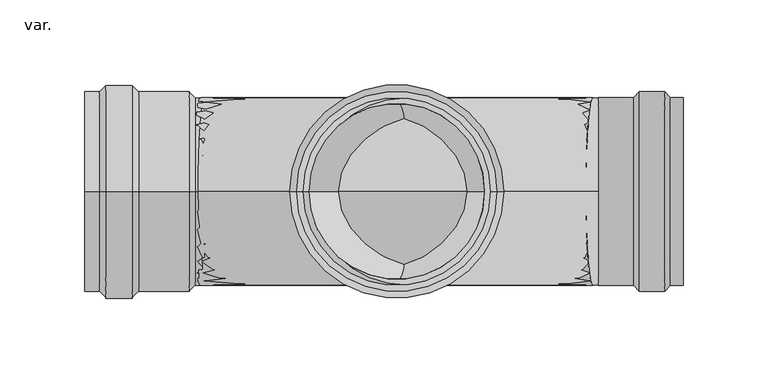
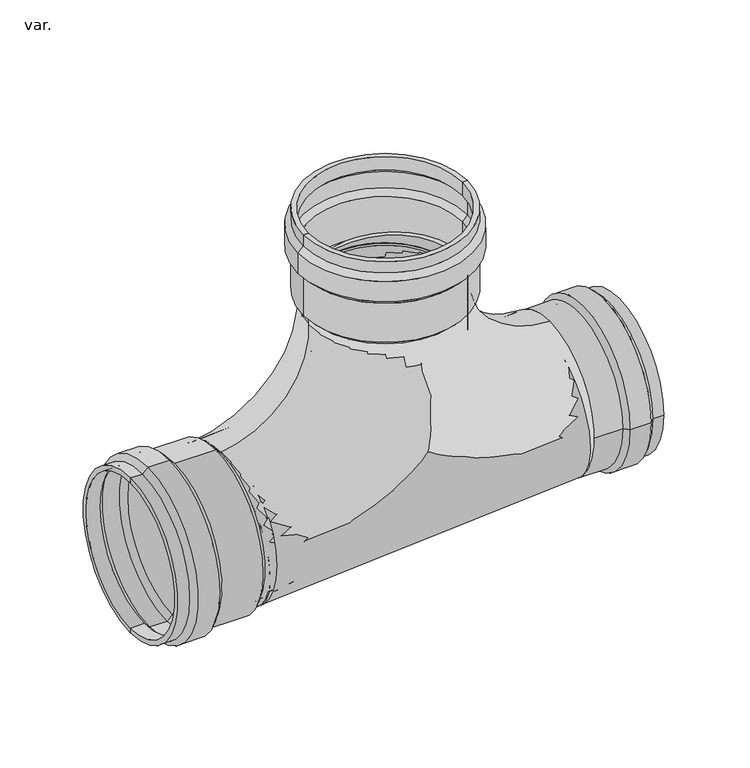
"""IFC4 building model written with IfcOpenShell, lengths in millimetres: pipe fitting geometry, AmancoWavin_ConexõesdeTubos_ColetoresTILdeligaçãoDN101.6XDN110 : var.."""

from ifc_helpers import new_model, si_unit, point, frame, origin, place, context, project, spatial, polyline, circle_curve, ellipse_curve, trimmed, source, transform, mapped, element, save
from ifc_brep_helpers import plane_surface, cylinder_surface, revolved_surface, advanced_brep


def var_0efadf23(model_context):
    return source(origin(), model_context, "Body", "AdvancedBrep", [
        advanced_brep(
        [(-173.6818444, 0.0, -72.5281325), (-173.6818444, 0.0, 38.2621325), (-183.6818444, 0.0, 38.2621325), (-183.6818444, 0.0, -72.5281325), (-110.326258, 0.0, -68.9925986), (-110.326258, 0.0, 34.7265986), (-120.1418444, 0.0, 34.7265986), (-120.1418444, 0.0, -68.9925986), (-123.6773783, 0.0, 38.2621325), (-123.6773783, 0.0, -72.5281325), (-153.3818444, 0.0, 38.2621325), (-153.3818444, 0.0, -72.5281325), (-157.2818444, 0.0, 42.1621325), (-157.2818444, 0.0, -76.4281325), (-169.7818444, 0.0, 42.1621325), (-169.7818444, 0.0, -76.4281325), (-183.6818444, 0.0, 41.8621325), (-183.6818444, 0.0, -76.1281325), (-175.1730132, 0.0, 41.8621325), (-175.1730132, 0.0, -76.1281325), (-171.2730132, 0.0, 45.7621325), (-171.2730132, 0.0, -80.0281325), (-155.7906756, 0.0, 45.7621325), (-155.7906756, 0.0, -80.0281325), (-151.8906756, 0.0, 41.8621325), (-151.8906756, 0.0, -76.1281325), (-122.1862095, 0.0, 41.8621325), (-122.1862095, 0.0, -76.1281325), (-118.6506756, 0.0, 38.3265986), (-118.6506756, 0.0, -72.5925986), (-110.326258, 0.0, -72.5925986), (-110.326258, 0.0, 38.3265986)],
        [
            (0, 1, circle_curve(frame((-173.6818444, 0.0, -17.133), z_axis=(1.0, 0.0, 0.0), x_axis=(0.0, 0.0, 1.0)), 55.3951325)),
            (1, 2),
            (2, 3, circle_curve(frame((-183.6818444, 0.0, -17.133), z_axis=(-1.0, 0.0, 0.0), x_axis=(0.0, 0.0, 1.0)), 55.3951325)),
            (3, 0),
            (1, 0, circle_curve(frame((-173.6818444, 0.0, -17.133), z_axis=(1.0, 0.0, 0.0), x_axis=(0.0, 0.0, 1.0)), 55.3951325)),
            (3, 2, circle_curve(frame((-183.6818444, 0.0, -17.133), z_axis=(-1.0, 0.0, 0.0), x_axis=(0.0, 0.0, 1.0)), 55.3951325)),
            (4, 5, circle_curve(frame((-110.326258, 0.0, -17.133), z_axis=(1.0, 0.0, 0.0), x_axis=(0.0, 0.0, 1.0)), 51.8595986)),
            (5, 6),
            (6, 7, circle_curve(frame((-120.1418444, 0.0, -17.133), z_axis=(-1.0, 0.0, 0.0), x_axis=(0.0, 0.0, 1.0)), 51.8595986)),
            (7, 4),
            (5, 4, circle_curve(frame((-110.326258, 0.0, -17.133), z_axis=(1.0, 0.0, 0.0), x_axis=(0.0, 0.0, 1.0)), 51.8595986)),
            (7, 6, circle_curve(frame((-120.1418444, 0.0, -17.133), z_axis=(-1.0, 0.0, 0.0), x_axis=(0.0, 0.0, 1.0)), 51.8595986)),
            (6, 8),
            (8, 9, circle_curve(frame((-123.6773783, 0.0, -17.133), z_axis=(-1.0, 0.0, 0.0), x_axis=(0.0, 0.0, 1.0)), 55.3951325)),
            (9, 7),
            (9, 8, circle_curve(frame((-123.6773783, 0.0, -17.133), z_axis=(-1.0, 0.0, 0.0), x_axis=(0.0, 0.0, 1.0)), 55.3951325)),
            (8, 10),
            (10, 11, circle_curve(frame((-153.3818444, 0.0, -17.133), z_axis=(-1.0, 0.0, 0.0), x_axis=(0.0, 0.0, 1.0)), 55.3951325)),
            (11, 9),
            (11, 10, circle_curve(frame((-153.3818444, 0.0, -17.133), z_axis=(-1.0, 0.0, 0.0), x_axis=(0.0, 0.0, 1.0)), 55.3951325)),
            (10, 12),
            (12, 13, circle_curve(frame((-157.2818444, 0.0, -17.133), z_axis=(-1.0, 0.0, 0.0), x_axis=(0.0, 0.0, 1.0)), 59.2951325)),
            (13, 11),
            (13, 12, circle_curve(frame((-157.2818444, 0.0, -17.133), z_axis=(-1.0, 0.0, 0.0), x_axis=(0.0, 0.0, 1.0)), 59.2951325)),
            (12, 14),
            (14, 15, circle_curve(frame((-169.7818444, 0.0, -17.133), z_axis=(-1.0, 0.0, 0.0), x_axis=(0.0, 0.0, 1.0)), 59.2951325)),
            (15, 13),
            (15, 14, circle_curve(frame((-169.7818444, 0.0, -17.133), z_axis=(-1.0, 0.0, 0.0), x_axis=(0.0, 0.0, 1.0)), 59.2951325)),
            (14, 1),
            (0, 15),
            (2, 16),
            (16, 17, circle_curve(frame((-183.6818444, 0.0, -17.133), z_axis=(-1.0, 0.0, 0.0), x_axis=(0.0, 0.0, 1.0)), 58.9951325)),
            (17, 3),
            (17, 16, circle_curve(frame((-183.6818444, 0.0, -17.133), z_axis=(-1.0, 0.0, 0.0), x_axis=(0.0, 0.0, 1.0)), 58.9951325)),
            (16, 18),
            (18, 19, circle_curve(frame((-175.1730132, 0.0, -17.133), z_axis=(-1.0, 0.0, 0.0), x_axis=(0.0, 0.0, 1.0)), 58.9951325)),
            (19, 17),
            (19, 18, circle_curve(frame((-175.1730132, 0.0, -17.133), z_axis=(-1.0, 0.0, 0.0), x_axis=(0.0, 0.0, 1.0)), 58.9951325)),
            (18, 20),
            (20, 21, circle_curve(frame((-171.2730132, 0.0, -17.133), z_axis=(-1.0, 0.0, 0.0), x_axis=(0.0, 0.0, 1.0)), 62.8951325)),
            (21, 19),
            (21, 20, circle_curve(frame((-171.2730132, 0.0, -17.133), z_axis=(-1.0, 0.0, 0.0), x_axis=(0.0, 0.0, 1.0)), 62.8951325)),
            (20, 22),
            (22, 23, circle_curve(frame((-155.7906756, 0.0, -17.133), z_axis=(-1.0, 0.0, 0.0), x_axis=(0.0, 0.0, 1.0)), 62.8951325)),
            (23, 21),
            (23, 22, circle_curve(frame((-155.7906756, 0.0, -17.133), z_axis=(-1.0, 0.0, 0.0), x_axis=(0.0, 0.0, 1.0)), 62.8951325)),
            (22, 24),
            (24, 25, circle_curve(frame((-151.8906756, 0.0, -17.133), z_axis=(-1.0, 0.0, 0.0), x_axis=(0.0, 0.0, 1.0)), 58.9951325)),
            (25, 23),
            (25, 24, circle_curve(frame((-151.8906756, 0.0, -17.133), z_axis=(-1.0, 0.0, 0.0), x_axis=(0.0, 0.0, 1.0)), 58.9951325)),
            (24, 26),
            (26, 27, circle_curve(frame((-122.1862095, 0.0, -17.133), z_axis=(-1.0, 0.0, 0.0), x_axis=(0.0, 0.0, 1.0)), 58.9951325)),
            (27, 25),
            (27, 26, circle_curve(frame((-122.1862095, 0.0, -17.133), z_axis=(-1.0, 0.0, 0.0), x_axis=(0.0, 0.0, 1.0)), 58.9951325)),
            (26, 28),
            (28, 29, circle_curve(frame((-118.6506756, 0.0, -17.133), z_axis=(-1.0, 0.0, 0.0), x_axis=(0.0, 0.0, 1.0)), 55.4595986)),
            (29, 27),
            (29, 28, circle_curve(frame((-118.6506756, 0.0, -17.133), z_axis=(-1.0, 0.0, 0.0), x_axis=(0.0, 0.0, 1.0)), 55.4595986)),
            (30, 31, circle_curve(frame((-110.326258, 0.0, -17.133), z_axis=(1.0, 0.0, 0.0), x_axis=(0.0, 0.0, 1.0)), 55.4595986)),
            (31, 5),
            (4, 30),
            (31, 30, circle_curve(frame((-110.326258, 0.0, -17.133), z_axis=(1.0, 0.0, 0.0), x_axis=(0.0, 0.0, 1.0)), 55.4595986)),
            (28, 31),
            (30, 29),
        ],
        [
            revolved_surface(polyline([(-183.68184440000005, 0.0, 38.26213250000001), (-173.68184440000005, 0.0, 38.26213250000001)]), (-1559.8194868, 0.0, -17.133), (-1.0, 0.0, 0.0)),
            revolved_surface(polyline([(-120.14184440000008, 0.0, 34.7265986), (-110.32625800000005, 0.0, 34.7265986)]), (-1559.8194868, 0.0, -17.133), (-1.0, 0.0, 0.0)),
            revolved_surface(polyline([(-123.6773783, 0.0, 38.2621325), (-120.1418444, 0.0, 34.7265986)]), (-1559.8194868, 0.0, -17.133), (-1.0, 0.0, 0.0)),
            revolved_surface(polyline([(-153.3818444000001, 0.0, 38.26213250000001), (-123.6773783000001, 0.0, 38.26213250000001)]), (-1559.8194868, 0.0, -17.133), (-1.0, 0.0, 0.0)),
            revolved_surface(polyline([(-157.2818444, 0.0, 42.1621325), (-153.3818444, 0.0, 38.2621325)]), (-1559.8194868, 0.0, -17.133), (-1.0, 0.0, 0.0)),
            revolved_surface(polyline([(-169.78184439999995, 0.0, 42.1621325), (-157.28184439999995, 0.0, 42.1621325)]), (-1559.8194868, 0.0, -17.133), (-1.0, 0.0, 0.0)),
            revolved_surface(polyline([(-173.6818444, 0.0, 38.2621325), (-169.7818444, 0.0, 42.1621325)]), (-1559.8194868, 0.0, -17.133), (-1.0, 0.0, 0.0)),
            plane_surface(frame((-183.6818444, 0.0, -17.133), z_axis=(-1.0, 0.0, 0.0), x_axis=(0.0, 0.0, 1.0))),
            cylinder_surface(frame((-1559.8194868, 0.0, -17.133), z_axis=(-1.0, 0.0, 0.0), x_axis=(0.0, 0.0, 1.0)), 58.9951325),
            revolved_surface(polyline([(-171.2730132, 0.0, 45.7621325), (-175.1730132, 0.0, 41.8621325)]), (-1559.8194868, 0.0, -17.133), (-1.0, 0.0, 0.0)),
            cylinder_surface(frame((-1559.8194868, 0.0, -17.133), z_axis=(-1.0, 0.0, 0.0), x_axis=(0.0, 0.0, 1.0)), 62.8951325),
            revolved_surface(polyline([(-151.8906756, 0.0, 41.8621325), (-155.7906756, 0.0, 45.7621325)]), (-1559.8194868, 0.0, -17.133), (-1.0, 0.0, 0.0)),
            revolved_surface(polyline([(-118.6506756, 0.0, 38.3265986), (-122.1862095, 0.0, 41.8621325)]), (-1559.8194868, 0.0, -17.133), (-1.0, 0.0, 0.0)),
            plane_surface(frame((-110.326258, 0.0, -17.133), z_axis=(1.0, 0.0, 0.0), x_axis=(0.0, 0.0, 1.0))),
            cylinder_surface(frame((-1559.8194868, 0.0, -17.133), z_axis=(-1.0, 0.0, 0.0), x_axis=(0.0, 0.0, 1.0)), 55.4595986),
        ],
        [
            (0, [[1, 2, 3, 4]]),
            (0, [[5, -4, 6, -2]]),
            (1, [[7, 8, 9, 10]]),
            (1, [[11, -10, 12, -8]]),
            (2, [[-9, 13, 14, 15]]),
            (2, [[-12, -15, 16, -13]]),
            (3, [[-14, 17, 18, 19]]),
            (3, [[-16, -19, 20, -17]]),
            (4, [[-18, 21, 22, 23]]),
            (4, [[-20, -23, 24, -21]]),
            (5, [[-22, 25, 26, 27]]),
            (5, [[-24, -27, 28, -25]]),
            (6, [[-26, 29, -1, 30]]),
            (6, [[-28, -30, -5, -29]]),
            (7, [[-3, 31, 32, 33]]),
            (7, [[-6, -33, 34, -31]]),
            (8, [[-32, 35, 36, 37]]),
            (8, [[-34, -37, 38, -35]]),
            (9, [[-36, 39, 40, 41]]),
            (9, [[-38, -41, 42, -39]]),
            (10, [[-40, 43, 44, 45]]),
            (10, [[-42, -45, 46, -43]]),
            (11, [[-44, 47, 48, 49]]),
            (11, [[-46, -49, 50, -47]]),
            (8, [[-48, 51, 52, 53]]),
            (8, [[-50, -53, 54, -51]]),
            (12, [[-52, 55, 56, 57]]),
            (12, [[-54, -57, 58, -55]]),
            (13, [[59, 60, -7, 61]]),
            (13, [[62, -61, -11, -60]]),
            (14, [[-56, 63, -59, 64]]),
            (14, [[-58, -64, -62, -63]]),
        ],
    ),
        advanced_brep(
        [(-111.4491883, 0.0, -72.4412911), (-119.6499959, 0.0, 38.1751324), (-111.7153523, 0.0, -68.8511439), (-119.383832, 0.0, 34.5849853), (119.6499959, 0.0, -55.3082118), (111.4491883, 0.0, 55.3082118), (119.383832, 0.0, -51.7180646), (111.7153523, 0.0, 51.7180646)],
        [
            (0, 1, circle_curve(frame((-115.5495921, 0.0, -17.1330793), z_axis=(-0.997263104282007, 0.0, -0.07393443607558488), x_axis=(-0.07393443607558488, 0.0, 0.997263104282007)), 55.46)),
            (1, 0, circle_curve(frame((-115.5495921, 0.0, -17.1330793), z_axis=(-0.997263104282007, 0.0, -0.07393443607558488), x_axis=(-0.07393443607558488, 0.0, 0.997263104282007)), 55.46)),
            (2, 3, circle_curve(frame((-115.5495921, 0.0, -17.1330793), z_axis=(0.997263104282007, 0.0, 0.07393443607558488), x_axis=(-0.07393443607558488, 0.0, 0.997263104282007)), 51.86)),
            (3, 2, circle_curve(frame((-115.5495921, 0.0, -17.1330793), z_axis=(0.997263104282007, 0.0, 0.07393443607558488), x_axis=(-0.07393443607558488, 0.0, 0.997263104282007)), 51.86)),
            (4, 5, circle_curve(frame((115.5495921, 0.0, 0.0), z_axis=(0.997263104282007, 0.0, 0.07393443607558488), x_axis=(-0.07393443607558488, 0.0, 0.997263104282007)), 55.46)),
            (5, 4, circle_curve(frame((115.5495921, 0.0, 0.0), z_axis=(0.997263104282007, 0.0, 0.07393443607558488), x_axis=(-0.07393443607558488, 0.0, 0.997263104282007)), 55.46)),
            (6, 7, circle_curve(frame((115.5495921, 0.0, 0.0), z_axis=(-0.997263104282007, 0.0, -0.07393443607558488), x_axis=(-0.07393443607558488, 0.0, 0.997263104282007)), 51.86)),
            (7, 6, circle_curve(frame((115.5495921, 0.0, 0.0), z_axis=(-0.997263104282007, 0.0, -0.07393443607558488), x_axis=(-0.07393443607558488, 0.0, 0.997263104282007)), 51.86)),
            (0, 4),
            (5, 1),
            (2, 6),
            (7, 3),
        ],
        [
            plane_surface(frame((-115.5495921, 0.0, -17.1330793), z_axis=(-0.997263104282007, 0.0, -0.07393443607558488), x_axis=(0.0, -1.0, 0.0))),
            plane_surface(frame((115.5495921, 0.0, 0.0), z_axis=(0.997263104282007, 0.0, 0.07393443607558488), x_axis=(0.0, -1.0, 0.0))),
            cylinder_surface(frame((-115.5495921, 0.0, -17.1330793), z_axis=(-0.997263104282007, 0.0, -0.07393443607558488), x_axis=(-0.07393443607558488, 0.0, 0.997263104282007)), 55.46),
            revolved_surface(polyline([(111.71535229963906, 0.0, 51.718064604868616), (-119.38383201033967, 0.0, 34.58498528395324)]), (-115.5495921, 0.0, -17.1330793), (0.997263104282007, 0.0, 0.07393443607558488)),
        ],
        [
            (0, [[1, 2], [3, 4]]),
            (1, [[5, 6], [7, 8]]),
            (2, [[-1, 9, -6, 10]]),
            (2, [[-2, -10, -5, -9]]),
            (3, [[-3, 11, -8, 12]]),
            (3, [[-4, -12, -7, -11]]),
        ],
    ),
        advanced_brep(
        [(55.3951325, 0.0, 183.6477247), (-55.3951325, 0.0, 183.6477247), (-55.3951325, 0.0, 173.6477247), (55.3951325, 0.0, 173.6477247), (51.8595986, 0.0, 120.1077247), (-51.8595986, 0.0, 120.1077247), (-51.8595986, 0.0, 118.6165559), (51.8595986, 0.0, 118.6165559), (55.3951325, 0.0, 123.6432587), (-55.3951325, 0.0, 123.6432587), (55.3951325, 0.0, 153.3477247), (-55.3951325, 0.0, 153.3477247), (59.2951325, 0.0, 157.2477247), (-59.2951325, 0.0, 157.2477247), (59.2951325, 0.0, 169.7477247), (-59.2951325, 0.0, 169.7477247), (58.9951325, 0.0, 183.6477247), (-58.9951325, 0.0, 183.6477247), (58.9951325, 0.0, 175.1388936), (-58.9951325, 0.0, 175.1388936), (62.8951325, 0.0, 171.2388936), (-62.8951325, 0.0, 171.2388936), (62.8951325, 0.0, 155.7565559), (-62.8951325, 0.0, 155.7565559), (58.9951325, 0.0, 151.8565559), (-58.9951325, 0.0, 151.8565559), (58.9951325, 0.0, 122.1520898), (-58.9951325, 0.0, 122.1520898), (55.4595986, 0.0, 118.6165559), (-55.4595986, 0.0, 118.6165559)],
        [
            (0, 1, circle_curve(frame((0.0, 0.0, 183.6477247), z_axis=(0.0, 0.0, 1.0), x_axis=(-1.0, 0.0, 0.0)), 55.3951325)),
            (1, 2),
            (2, 3, circle_curve(frame((0.0, 0.0, 173.6477247), z_axis=(0.0, 0.0, -1.0), x_axis=(-1.0, 0.0, 0.0)), 55.3951325)),
            (3, 0),
            (1, 0, circle_curve(frame((0.0, 0.0, 183.6477247), z_axis=(0.0, 0.0, 1.0), x_axis=(-1.0, 0.0, 0.0)), 55.3951325)),
            (3, 2, circle_curve(frame((0.0, 0.0, 173.6477247), z_axis=(0.0, 0.0, -1.0), x_axis=(-1.0, 0.0, 0.0)), 55.3951325)),
            (4, 5, circle_curve(frame((0.0, 0.0, 120.1077247), z_axis=(0.0, 0.0, 1.0), x_axis=(-1.0, 0.0, 0.0)), 51.8595986)),
            (5, 6),
            (6, 7, circle_curve(frame((0.0, 0.0, 118.6165559), z_axis=(0.0, 0.0, -1.0), x_axis=(-1.0, 0.0, 0.0)), 51.8595986)),
            (7, 4),
            (5, 4, circle_curve(frame((0.0, 0.0, 120.1077247), z_axis=(0.0, 0.0, 1.0), x_axis=(-1.0, 0.0, 0.0)), 51.8595986)),
            (7, 6, circle_curve(frame((0.0, 0.0, 118.6165559), z_axis=(0.0, 0.0, -1.0), x_axis=(-1.0, 0.0, 0.0)), 51.8595986)),
            (4, 8),
            (8, 9, circle_curve(frame((0.0, 0.0, 123.6432587), z_axis=(0.0, 0.0, 1.0), x_axis=(-1.0, 0.0, 0.0)), 55.3951325)),
            (9, 5),
            (9, 8, circle_curve(frame((0.0, 0.0, 123.6432587), z_axis=(0.0, 0.0, 1.0), x_axis=(-1.0, 0.0, 0.0)), 55.3951325)),
            (8, 10),
            (10, 11, circle_curve(frame((0.0, 0.0, 153.3477247), z_axis=(0.0, 0.0, 1.0), x_axis=(-1.0, 0.0, 0.0)), 55.3951325)),
            (11, 9),
            (11, 10, circle_curve(frame((0.0, 0.0, 153.3477247), z_axis=(0.0, 0.0, 1.0), x_axis=(-1.0, 0.0, 0.0)), 55.3951325)),
            (10, 12),
            (12, 13, circle_curve(frame((0.0, 0.0, 157.2477247), z_axis=(0.0, 0.0, 1.0), x_axis=(-1.0, 0.0, 0.0)), 59.2951325)),
            (13, 11),
            (13, 12, circle_curve(frame((0.0, 0.0, 157.2477247), z_axis=(0.0, 0.0, 1.0), x_axis=(-1.0, 0.0, 0.0)), 59.2951325)),
            (12, 14),
            (14, 15, circle_curve(frame((0.0, 0.0, 169.7477247), z_axis=(0.0, 0.0, 1.0), x_axis=(-1.0, 0.0, 0.0)), 59.2951325)),
            (15, 13),
            (15, 14, circle_curve(frame((0.0, 0.0, 169.7477247), z_axis=(0.0, 0.0, 1.0), x_axis=(-1.0, 0.0, 0.0)), 59.2951325)),
            (2, 15),
            (14, 3),
            (0, 16),
            (16, 17, circle_curve(frame((0.0, 0.0, 183.6477247), z_axis=(0.0, 0.0, 1.0), x_axis=(-1.0, 0.0, 0.0)), 58.9951325)),
            (17, 1),
            (17, 16, circle_curve(frame((0.0, 0.0, 183.6477247), z_axis=(0.0, 0.0, 1.0), x_axis=(-1.0, 0.0, 0.0)), 58.9951325)),
            (16, 18),
            (18, 19, circle_curve(frame((0.0, 0.0, 175.1388936), z_axis=(0.0, 0.0, 1.0), x_axis=(-1.0, 0.0, 0.0)), 58.9951325)),
            (19, 17),
            (19, 18, circle_curve(frame((0.0, 0.0, 175.1388936), z_axis=(0.0, 0.0, 1.0), x_axis=(-1.0, 0.0, 0.0)), 58.9951325)),
            (18, 20),
            (20, 21, circle_curve(frame((0.0, 0.0, 171.2388936), z_axis=(0.0, 0.0, 1.0), x_axis=(-1.0, 0.0, 0.0)), 62.8951325)),
            (21, 19),
            (21, 20, circle_curve(frame((0.0, 0.0, 171.2388936), z_axis=(0.0, 0.0, 1.0), x_axis=(-1.0, 0.0, 0.0)), 62.8951325)),
            (20, 22),
            (22, 23, circle_curve(frame((0.0, 0.0, 155.7565559), z_axis=(0.0, 0.0, 1.0), x_axis=(-1.0, 0.0, 0.0)), 62.8951325)),
            (23, 21),
            (23, 22, circle_curve(frame((0.0, 0.0, 155.7565559), z_axis=(0.0, 0.0, 1.0), x_axis=(-1.0, 0.0, 0.0)), 62.8951325)),
            (22, 24),
            (24, 25, circle_curve(frame((0.0, 0.0, 151.8565559), z_axis=(0.0, 0.0, 1.0), x_axis=(-1.0, 0.0, 0.0)), 58.9951325)),
            (25, 23),
            (25, 24, circle_curve(frame((0.0, 0.0, 151.8565559), z_axis=(0.0, 0.0, 1.0), x_axis=(-1.0, 0.0, 0.0)), 58.9951325)),
            (24, 26),
            (26, 27, circle_curve(frame((0.0, 0.0, 122.1520898), z_axis=(0.0, 0.0, 1.0), x_axis=(-1.0, 0.0, 0.0)), 58.9951325)),
            (27, 25),
            (27, 26, circle_curve(frame((0.0, 0.0, 122.1520898), z_axis=(0.0, 0.0, 1.0), x_axis=(-1.0, 0.0, 0.0)), 58.9951325)),
            (26, 28),
            (28, 29, circle_curve(frame((0.0, 0.0, 118.6165559), z_axis=(0.0, 0.0, 1.0), x_axis=(-1.0, 0.0, 0.0)), 55.4595986)),
            (29, 27),
            (29, 28, circle_curve(frame((0.0, 0.0, 118.6165559), z_axis=(0.0, 0.0, 1.0), x_axis=(-1.0, 0.0, 0.0)), 55.4595986)),
            (6, 29),
            (28, 7),
        ],
        [
            revolved_surface(polyline([(-55.3951325, 0.0, 173.6477246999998), (-55.3951325, 0.0, 183.6477246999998)]), (0.0, 0.0, 2288.6344522), (0.0, 0.0, -1.0)),
            revolved_surface(polyline([(-51.8595986, 0.0, 118.6165559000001), (-51.8595986, 0.0, 120.10772469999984)]), (0.0, 0.0, 2288.6344522), (0.0, 0.0, -1.0)),
            revolved_surface(polyline([(-51.8595986, 0.0, 120.1077247), (-55.3951325, 0.0, 123.6432587)]), (0.0, 0.0, 2288.6344522), (0.0, 0.0, -1.0)),
            revolved_surface(polyline([(-55.3951325, 0.0, 123.64325869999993), (-55.3951325, 0.0, 153.34772470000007)]), (0.0, 0.0, 2288.6344522), (0.0, 0.0, -1.0)),
            revolved_surface(polyline([(-55.3951325, 0.0, 153.3477247), (-59.2951325, 0.0, 157.2477247)]), (0.0, 0.0, 2288.6344522), (0.0, 0.0, -1.0)),
            revolved_surface(polyline([(-59.2951325, 0.0, 157.24772470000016), (-59.2951325, 0.0, 169.74772470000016)]), (0.0, 0.0, 2288.6344522), (0.0, 0.0, -1.0)),
            revolved_surface(polyline([(-59.2951325, 0.0, 169.7477247), (-55.3951325, 0.0, 173.6477247)]), (0.0, 0.0, 2288.6344522), (0.0, 0.0, -1.0)),
            plane_surface(frame((0.0, 0.0, 183.6477247), z_axis=(0.0, 0.0, 1.0), x_axis=(-1.0, 0.0, 0.0))),
            cylinder_surface(frame((0.0, 0.0, 2288.6344522), z_axis=(0.0, 0.0, -1.0), x_axis=(-1.0, 0.0, 0.0)), 58.9951325),
            revolved_surface(polyline([(-58.9951325, 0.0, 175.1388936), (-62.8951325, 0.0, 171.2388936)]), (0.0, 0.0, 2288.6344522), (0.0, 0.0, -1.0)),
            cylinder_surface(frame((0.0, 0.0, 2288.6344522), z_axis=(0.0, 0.0, -1.0), x_axis=(-1.0, 0.0, 0.0)), 62.8951325),
            revolved_surface(polyline([(-62.8951325, 0.0, 155.7565559), (-58.9951325, 0.0, 151.8565559)]), (0.0, 0.0, 2288.6344522), (0.0, 0.0, -1.0)),
            revolved_surface(polyline([(-58.9951325, 0.0, 122.1520898), (-55.4595986, 0.0, 118.6165559)]), (0.0, 0.0, 2288.6344522), (0.0, 0.0, -1.0)),
            plane_surface(frame((0.0, 0.0, 118.6165559), z_axis=(0.0, 0.0, -1.0), x_axis=(-1.0, 0.0, 0.0))),
        ],
        [
            (0, [[1, 2, 3, 4]]),
            (0, [[-2, 5, -4, 6]]),
            (1, [[7, 8, 9, 10]]),
            (1, [[-8, 11, -10, 12]]),
            (2, [[-7, 13, 14, 15]]),
            (2, [[-11, -15, 16, -13]]),
            (3, [[-14, 17, 18, 19]]),
            (3, [[-16, -19, 20, -17]]),
            (4, [[-18, 21, 22, 23]]),
            (4, [[-20, -23, 24, -21]]),
            (5, [[-22, 25, 26, 27]]),
            (5, [[-24, -27, 28, -25]]),
            (6, [[-3, 29, -26, 30]]),
            (6, [[-6, -30, -28, -29]]),
            (7, [[-1, 31, 32, 33]]),
            (7, [[-5, -33, 34, -31]]),
            (8, [[-32, 35, 36, 37]]),
            (8, [[-34, -37, 38, -35]]),
            (9, [[-36, 39, 40, 41]]),
            (9, [[-38, -41, 42, -39]]),
            (10, [[-40, 43, 44, 45]]),
            (10, [[-42, -45, 46, -43]]),
            (11, [[-44, 47, 48, 49]]),
            (11, [[-46, -49, 50, -47]]),
            (8, [[-48, 51, 52, 53]]),
            (8, [[-50, -53, 54, -51]]),
            (12, [[-52, 55, 56, 57]]),
            (12, [[-54, -57, 58, -55]]),
            (13, [[-9, 59, -56, 60]]),
            (13, [[-12, -60, -58, -59]]),
        ],
    ),
        advanced_brep(
        [(118.6181556, 0.0, 55.46), (118.6181556, 0.0, -55.46), (118.6181556, 0.0, 51.86), (118.6181556, 0.0, -51.86), (55.4615997, 0.0, 118.6165559), (-55.4584003, 0.0, 118.6165559), (51.8615997, 0.0, 118.6165559), (-51.8584003, 0.0, 118.6165559)],
        [
            (0, 1, circle_curve(frame((118.6181556, 0.0, 0.0), z_axis=(1.0, 0.0, 0.0), x_axis=(0.0, 0.0, -1.0)), 55.46)),
            (1, 0, circle_curve(frame((118.6181556, 0.0, 0.0), z_axis=(1.0, 0.0, 0.0), x_axis=(0.0, 0.0, -1.0)), 55.46)),
            (2, 3, circle_curve(frame((118.6181556, 0.0, 0.0), z_axis=(-1.0, 0.0, 0.0), x_axis=(0.0, 0.0, -1.0)), 51.86)),
            (3, 2, circle_curve(frame((118.6181556, 0.0, 0.0), z_axis=(-1.0, 0.0, 0.0), x_axis=(0.0, 0.0, -1.0)), 51.86)),
            (4, 5, circle_curve(frame((0.0015997, 0.0, 118.6165559), z_axis=(0.0, 0.0, 1.0), x_axis=(-1.0, 0.0, 0.0)), 55.46)),
            (5, 4, circle_curve(frame((0.0015997, 0.0, 118.6165559), z_axis=(0.0, 0.0, 1.0), x_axis=(-1.0, 0.0, 0.0)), 55.46)),
            (6, 7, circle_curve(frame((0.0015997, 0.0, 118.6165559), z_axis=(0.0, 0.0, -1.0), x_axis=(-1.0, 0.0, 0.0)), 51.86)),
            (7, 6, circle_curve(frame((0.0015997, 0.0, 118.6165559), z_axis=(0.0, 0.0, -1.0), x_axis=(-1.0, 0.0, 0.0)), 51.86)),
            (5, 1, circle_curve(frame((118.6181556, 0.0, 118.6165559), z_axis=(0.0, -1.0, 0.0), x_axis=(0.0, 0.0, -1.0)), 174.0765559)),
            (0, 4, circle_curve(frame((118.6181556, 0.0, 118.6165559), z_axis=(0.0, 1.0, 0.0), x_axis=(0.0, 0.0, -1.0)), 63.1565559)),
            (7, 3, circle_curve(frame((118.6181556, 0.0, 118.6165559), z_axis=(0.0, -1.0, 0.0), x_axis=(0.0, 0.0, -1.0)), 170.4765559)),
            (2, 6, circle_curve(frame((118.6181556, 0.0, 118.6165559), z_axis=(0.0, 1.0, 0.0), x_axis=(0.0, 0.0, -1.0)), 66.7565559)),
        ],
        [
            plane_surface(frame((118.6181556, 0.0, 0.0), z_axis=(1.0, 0.0, 0.0), x_axis=(0.0, -1.0, 0.0))),
            plane_surface(frame((0.0015997, 0.0, 118.6165559), z_axis=(0.0, 0.0, 1.0), x_axis=(0.0, -1.0, 0.0))),
            revolved_surface(trimmed(ellipse_curve(frame((118.6181556, 0.0, 0.0), z_axis=(1.0, 0.0, 0.0), x_axis=(0.0, 0.0, -1.0)), 55.46, 55.46), [point((118.6181556, 0.0, 55.46))], [point((118.6181556, 0.0, -55.46))], True, "CARTESIAN"), (118.6181556, 0.0, 118.6165559), (0.0, 1.0, 0.0)),
            revolved_surface(trimmed(ellipse_curve(frame((118.6181556, 0.0, 0.0), z_axis=(1.0, 0.0, 0.0), x_axis=(0.0, 0.0, -1.0)), 55.46, 55.46), [point((118.6181556, 0.0, -55.46))], [point((118.6181556, 0.0, 55.46))], True, "CARTESIAN"), (118.6181556, 0.0, 118.6165559), (0.0, 1.0, 0.0)),
            revolved_surface(trimmed(ellipse_curve(frame((118.6181556, 0.0, 0.0), z_axis=(-1.0, 0.0, 0.0), x_axis=(0.0, 0.0, -1.0)), 51.86, 51.86), [point((118.6181556, 0.0, 51.86))], [point((118.6181556, 0.0, -51.86))], True, "CARTESIAN"), (118.6181556, 0.0, 118.6165559), (0.0, 1.0, 0.0)),
            revolved_surface(trimmed(ellipse_curve(frame((118.6181556, 0.0, 0.0), z_axis=(-1.0, 0.0, 0.0), x_axis=(0.0, 0.0, -1.0)), 51.86, 51.86), [point((118.6181556, 0.0, -51.86))], [point((118.6181556, 0.0, 51.86))], True, "CARTESIAN"), (118.6181556, 0.0, 118.6165559), (0.0, 1.0, 0.0)),
        ],
        [
            (0, [[1, 2], [3, 4]]),
            (1, [[5, 6], [7, 8]]),
            (2, [[9, -1, 10, -6]]),
            (3, [[-10, -2, -9, -5]]),
            (4, [[11, -3, 12, -8]]),
            (5, [[-12, -4, -11, -7]]),
        ],
    ),
        advanced_brep(
        [(-110.1319277, 0.0, -72.3278197), (-120.9668432, 0.0, 38.0617224), (-110.4835838, 0.0, -68.7450362), (-120.6151871, 0.0, 34.4789388), (55.191911, 0.0, 129.089777), (-55.191911, 0.0, 118.1967403), (51.6093131, 0.0, 128.7362345), (-51.6093131, 0.0, 118.5502828)],
        [
            (0, 1, circle_curve(frame((-115.5493855, 0.0, -17.1330487), z_axis=(-0.9952176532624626, 0.0, -0.09768225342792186), x_axis=(-0.09768225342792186, 0.0, 0.9952176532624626)), 55.46)),
            (1, 0, circle_curve(frame((-115.5493855, 0.0, -17.1330487), z_axis=(-0.9952176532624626, 0.0, -0.09768225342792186), x_axis=(-0.09768225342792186, 0.0, 0.9952176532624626)), 55.46)),
            (2, 3, circle_curve(frame((-115.5493855, 0.0, -17.1330487), z_axis=(0.9952176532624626, 0.0, 0.09768225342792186), x_axis=(-0.09768225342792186, 0.0, 0.9952176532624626)), 51.86)),
            (3, 2, circle_curve(frame((-115.5493855, 0.0, -17.1330487), z_axis=(0.9952176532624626, 0.0, 0.09768225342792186), x_axis=(-0.09768225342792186, 0.0, 0.9952176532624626)), 51.86)),
            (4, 5, circle_curve(frame((0.0, 0.0, 123.6432587), z_axis=(-0.09820624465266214, 0.0, 0.9951660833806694), x_axis=(-0.9951660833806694, 0.0, -0.09820624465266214)), 55.46)),
            (5, 4, circle_curve(frame((0.0, 0.0, 123.6432587), z_axis=(-0.09820624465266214, 0.0, 0.9951660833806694), x_axis=(-0.9951660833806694, 0.0, -0.09820624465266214)), 55.46)),
            (6, 7, circle_curve(frame((0.0, 0.0, 123.6432587), z_axis=(0.09820624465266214, 0.0, -0.9951660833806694), x_axis=(-0.9951660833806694, 0.0, -0.09820624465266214)), 51.86)),
            (7, 6, circle_curve(frame((0.0, 0.0, 123.6432587), z_axis=(0.09820624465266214, 0.0, -0.9951660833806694), x_axis=(-0.9951660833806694, 0.0, -0.09820624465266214)), 51.86)),
            (5, 1, circle_curve(frame((-128.1257952, 0.0, 110.999386), z_axis=(0.0, 1.0, 0.0), x_axis=(0.09768225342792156, 0.0, -0.9952176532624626)), 73.288153)),
            (0, 4, circle_curve(frame((-128.1257952, 0.0, 110.999386), z_axis=(0.0, -1.0, 0.0), x_axis=(0.09768225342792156, 0.0, -0.9952176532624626)), 184.208153)),
            (7, 3, circle_curve(frame((-128.1257952, 0.0, 110.999386), z_axis=(0.0, 1.0, 0.0), x_axis=(0.09768225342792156, 0.0, -0.9952176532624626)), 76.888153)),
            (2, 6, circle_curve(frame((-128.1257952, 0.0, 110.999386), z_axis=(0.0, -1.0, 0.0), x_axis=(0.09768225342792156, 0.0, -0.9952176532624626)), 180.608153)),
        ],
        [
            plane_surface(frame((-115.5493855, 0.0, -17.1330487), z_axis=(-0.9952176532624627, 0.0, -0.09768225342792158), x_axis=(0.0, -1.0, 0.0))),
            plane_surface(frame((0.0, 0.0, 123.6432587), z_axis=(-0.09820624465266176, 0.0, 0.9951660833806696), x_axis=(0.0, -1.0, 0.0))),
            revolved_surface(trimmed(ellipse_curve(frame((-115.5493855, 0.0, -17.1330487), z_axis=(-0.9952176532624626, 0.0, -0.09768225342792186), x_axis=(-0.09768225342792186, 0.0, 0.9952176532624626)), 55.46, 55.46), [point((-110.1319277, 0.0, -72.3278197))], [point((-120.9668432, 0.0, 38.0617224))], True, "CARTESIAN"), (-128.1257952, 0.0, 110.999386), (0.0, -1.0, 0.0)),
            revolved_surface(trimmed(ellipse_curve(frame((-115.5493855, 0.0, -17.1330487), z_axis=(-0.9952176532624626, 0.0, -0.09768225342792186), x_axis=(-0.09768225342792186, 0.0, 0.9952176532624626)), 55.46, 55.46), [point((-120.9668432, 0.0, 38.0617224))], [point((-110.1319277, 0.0, -72.3278197))], True, "CARTESIAN"), (-128.1257952, 0.0, 110.999386), (0.0, -1.0, 0.0)),
            revolved_surface(trimmed(ellipse_curve(frame((-115.5493855, 0.0, -17.1330487), z_axis=(0.9952176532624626, 0.0, 0.09768225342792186), x_axis=(-0.09768225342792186, 0.0, 0.9952176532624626)), 51.86, 51.86), [point((-110.4835838, 0.0, -68.7450362))], [point((-120.6151871, 0.0, 34.4789388))], True, "CARTESIAN"), (-128.1257952, 0.0, 110.999386), (0.0, -1.0, 0.0)),
            revolved_surface(trimmed(ellipse_curve(frame((-115.5493855, 0.0, -17.1330487), z_axis=(0.9952176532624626, 0.0, 0.09768225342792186), x_axis=(-0.09768225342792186, 0.0, 0.9952176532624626)), 51.86, 51.86), [point((-120.6151871, 0.0, 34.4789388))], [point((-110.4835838, 0.0, -68.7450362))], True, "CARTESIAN"), (-128.1257952, 0.0, 110.999386), (0.0, -1.0, 0.0)),
        ],
        [
            (0, [[1, 2], [3, 4]]),
            (1, [[5, 6], [7, 8]]),
            (2, [[9, -1, 10, -6]]),
            (3, [[-10, -2, -9, -5]]),
            (4, [[11, -3, 12, -8]]),
            (5, [[-12, -4, -11, -7]]),
        ],
    ),
        advanced_brep(
        [(140.9169868, -51.86, 0.0), (140.9169868, 51.86, 0.0), (118.6181556, 51.86, 0.0), (118.6181556, -51.86, 0.0), (144.3169868, -55.26, 0.0), (144.3169868, 55.26, 0.0), (156.2181556, -55.26, 0.0), (156.2181556, 55.26, 0.0), (159.6181556, -51.86, 0.0), (159.6181556, 51.86, 0.0), (168.6181556, -51.86, 0.0), (168.6181556, 51.86, 0.0), (168.6181556, -55.46, 0.0), (168.6181556, 55.46, 0.0), (161.1093244, -55.46, 0.0), (161.1093244, 55.46, 0.0), (157.7093244, -58.86, 0.0), (157.7093244, 58.86, 0.0), (142.825818, -58.86, 0.0), (142.825818, 58.86, 0.0), (139.425818, -55.46, 0.0), (139.425818, 55.46, 0.0), (118.6181556, -55.46, 0.0), (118.6181556, 55.46, 0.0)],
        [
            (0, 1, circle_curve(frame((140.9169868, 0.0, 0.0), z_axis=(1.0, 0.0, 0.0), x_axis=(0.0, 1.0, 0.0)), 51.86)),
            (1, 2),
            (2, 3, circle_curve(frame((118.6181556, 0.0, 0.0), z_axis=(-1.0, 0.0, 0.0), x_axis=(0.0, 1.0, 0.0)), 51.86)),
            (3, 0),
            (1, 0, circle_curve(frame((140.9169868, 0.0, 0.0), z_axis=(1.0, 0.0, 0.0), x_axis=(0.0, 1.0, 0.0)), 51.86)),
            (3, 2, circle_curve(frame((118.6181556, 0.0, 0.0), z_axis=(-1.0, 0.0, 0.0), x_axis=(0.0, 1.0, 0.0)), 51.86)),
            (4, 5, circle_curve(frame((144.3169868, 0.0, 0.0), z_axis=(1.0, 0.0, 0.0), x_axis=(0.0, 1.0, 0.0)), 55.26)),
            (5, 1),
            (0, 4),
            (5, 4, circle_curve(frame((144.3169868, 0.0, 0.0), z_axis=(1.0, 0.0, 0.0), x_axis=(0.0, 1.0, 0.0)), 55.26)),
            (6, 7, circle_curve(frame((156.2181556, 0.0, 0.0), z_axis=(1.0, 0.0, 0.0), x_axis=(0.0, 1.0, 0.0)), 55.26)),
            (7, 5),
            (4, 6),
            (7, 6, circle_curve(frame((156.2181556, 0.0, 0.0), z_axis=(1.0, 0.0, 0.0), x_axis=(0.0, 1.0, 0.0)), 55.26)),
            (8, 9, circle_curve(frame((159.6181556, 0.0, 0.0), z_axis=(1.0, 0.0, 0.0), x_axis=(0.0, 1.0, 0.0)), 51.86)),
            (9, 7),
            (6, 8),
            (9, 8, circle_curve(frame((159.6181556, 0.0, 0.0), z_axis=(1.0, 0.0, 0.0), x_axis=(0.0, 1.0, 0.0)), 51.86)),
            (10, 11, circle_curve(frame((168.6181556, 0.0, 0.0), z_axis=(1.0, 0.0, 0.0), x_axis=(0.0, 1.0, 0.0)), 51.86)),
            (11, 9),
            (8, 10),
            (11, 10, circle_curve(frame((168.6181556, 0.0, 0.0), z_axis=(1.0, 0.0, 0.0), x_axis=(0.0, 1.0, 0.0)), 51.86)),
            (12, 13, circle_curve(frame((168.6181556, 0.0, 0.0), z_axis=(1.0, 0.0, 0.0), x_axis=(0.0, 1.0, 0.0)), 55.46)),
            (13, 11),
            (10, 12),
            (13, 12, circle_curve(frame((168.6181556, 0.0, 0.0), z_axis=(1.0, 0.0, 0.0), x_axis=(0.0, 1.0, 0.0)), 55.46)),
            (14, 15, circle_curve(frame((161.1093244, 0.0, 0.0), z_axis=(1.0, 0.0, 0.0), x_axis=(0.0, 1.0, 0.0)), 55.46)),
            (15, 13),
            (12, 14),
            (15, 14, circle_curve(frame((161.1093244, 0.0, 0.0), z_axis=(1.0, 0.0, 0.0), x_axis=(0.0, 1.0, 0.0)), 55.46)),
            (16, 17, circle_curve(frame((157.7093244, 0.0, 0.0), z_axis=(1.0, 0.0, 0.0), x_axis=(0.0, 1.0, 0.0)), 58.86)),
            (17, 15),
            (14, 16),
            (17, 16, circle_curve(frame((157.7093244, 0.0, 0.0), z_axis=(1.0, 0.0, 0.0), x_axis=(0.0, 1.0, 0.0)), 58.86)),
            (18, 19, circle_curve(frame((142.825818, 0.0, 0.0), z_axis=(1.0, 0.0, 0.0), x_axis=(0.0, 1.0, 0.0)), 58.86)),
            (19, 17),
            (16, 18),
            (19, 18, circle_curve(frame((142.825818, 0.0, 0.0), z_axis=(1.0, 0.0, 0.0), x_axis=(0.0, 1.0, 0.0)), 58.86)),
            (20, 21, circle_curve(frame((139.425818, 0.0, 0.0), z_axis=(1.0, 0.0, 0.0), x_axis=(0.0, 1.0, 0.0)), 55.46)),
            (21, 19),
            (18, 20),
            (21, 20, circle_curve(frame((139.425818, 0.0, 0.0), z_axis=(1.0, 0.0, 0.0), x_axis=(0.0, 1.0, 0.0)), 55.46)),
            (22, 23, circle_curve(frame((118.6181556, 0.0, 0.0), z_axis=(1.0, 0.0, 0.0), x_axis=(0.0, 1.0, 0.0)), 55.46)),
            (23, 21),
            (20, 22),
            (23, 22, circle_curve(frame((118.6181556, 0.0, 0.0), z_axis=(1.0, 0.0, 0.0), x_axis=(0.0, 1.0, 0.0)), 55.46)),
            (2, 23),
            (22, 3),
        ],
        [
            revolved_surface(polyline([(118.61815559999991, 51.86, 0.0), (140.9169867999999, 51.86, 0.0)]), (1946.9881556, 0.0, 0.0), (-1.0, 0.0, 0.0)),
            revolved_surface(polyline([(140.9169868, 51.86, 0.0), (144.3169868, 55.26, 0.0)]), (1946.9881556, 0.0, 0.0), (-1.0, 0.0, 0.0)),
            revolved_surface(polyline([(144.3169868, 55.26, 0.0), (156.21815560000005, 55.26, 0.0)]), (1946.9881556, 0.0, 0.0), (-1.0, 0.0, 0.0)),
            revolved_surface(polyline([(156.2181556, 55.26, 0.0), (159.6181556, 51.86, 0.0)]), (1946.9881556, 0.0, 0.0), (-1.0, 0.0, 0.0)),
            revolved_surface(polyline([(159.6181555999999, 51.86, 0.0), (168.6181555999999, 51.86, 0.0)]), (1946.9881556, 0.0, 0.0), (-1.0, 0.0, 0.0)),
            plane_surface(frame((168.6181556, 0.0, 0.0), z_axis=(1.0, 0.0, 0.0), x_axis=(0.0, 1.0, 0.0))),
            cylinder_surface(frame((1946.9881556, 0.0, 0.0), z_axis=(-1.0, 0.0, 0.0), x_axis=(0.0, 1.0, 0.0)), 55.46),
            revolved_surface(polyline([(161.1093244, 55.46, 0.0), (157.7093244, 58.86, 0.0)]), (1946.9881556, 0.0, 0.0), (-1.0, 0.0, 0.0)),
            cylinder_surface(frame((1946.9881556, 0.0, 0.0), z_axis=(-1.0, 0.0, 0.0), x_axis=(0.0, 1.0, 0.0)), 58.86),
            revolved_surface(polyline([(142.825818, 58.86, 0.0), (139.425818, 55.46, 0.0)]), (1946.9881556, 0.0, 0.0), (-1.0, 0.0, 0.0)),
            plane_surface(frame((118.6181556, 0.0, 0.0), z_axis=(-1.0, 0.0, 0.0), x_axis=(0.0, 1.0, 0.0))),
        ],
        [
            (0, [[1, 2, 3, 4]]),
            (0, [[5, -4, 6, -2]]),
            (1, [[7, 8, -1, 9]]),
            (1, [[10, -9, -5, -8]]),
            (2, [[11, 12, -7, 13]]),
            (2, [[14, -13, -10, -12]]),
            (3, [[15, 16, -11, 17]]),
            (3, [[18, -17, -14, -16]]),
            (4, [[19, 20, -15, 21]]),
            (4, [[22, -21, -18, -20]]),
            (5, [[23, 24, -19, 25]]),
            (5, [[26, -25, -22, -24]]),
            (6, [[27, 28, -23, 29]]),
            (6, [[30, -29, -26, -28]]),
            (7, [[31, 32, -27, 33]]),
            (7, [[34, -33, -30, -32]]),
            (8, [[35, 36, -31, 37]]),
            (8, [[38, -37, -34, -36]]),
            (9, [[39, 40, -35, 41]]),
            (9, [[42, -41, -38, -40]]),
            (6, [[43, 44, -39, 45]]),
            (6, [[46, -45, -42, -44]]),
            (10, [[-3, 47, -43, 48]]),
            (10, [[-6, -48, -46, -47]]),
        ],
    ),
    ])


if __name__ == "__main__":
    model = new_model("IFC4")
    model_context = context("Model", 3, world=origin())
    ifc_project = project(units=[si_unit("LENGTHUNIT", "METRE", prefix="MILLI")], contexts=[model_context])
    site = spatial("IfcSite", under=ifc_project)
    building = spatial("IfcBuilding", under=site)
    placement = place(None, origin())
    var_shape = var_0efadf23(model_context)
    element("IfcPipeFitting", 1, ObjectType="AmancoWavin_ConexõesdeTubos_ColetoresTILdeligaçãoDN101.6XDN110 : var.", at=placement, inside=building, context=model_context, shape_type="MappedRepresentation", body=[
        mapped(var_shape, transform((0.0, 0.0, 0.0), x_axis=(1.0, 0.0, 0.0), y_axis=(0.0, 1.0, 0.0), z_axis=(0.0, 0.0, 1.0))),
    ])
    save(model, "model.ifc")
